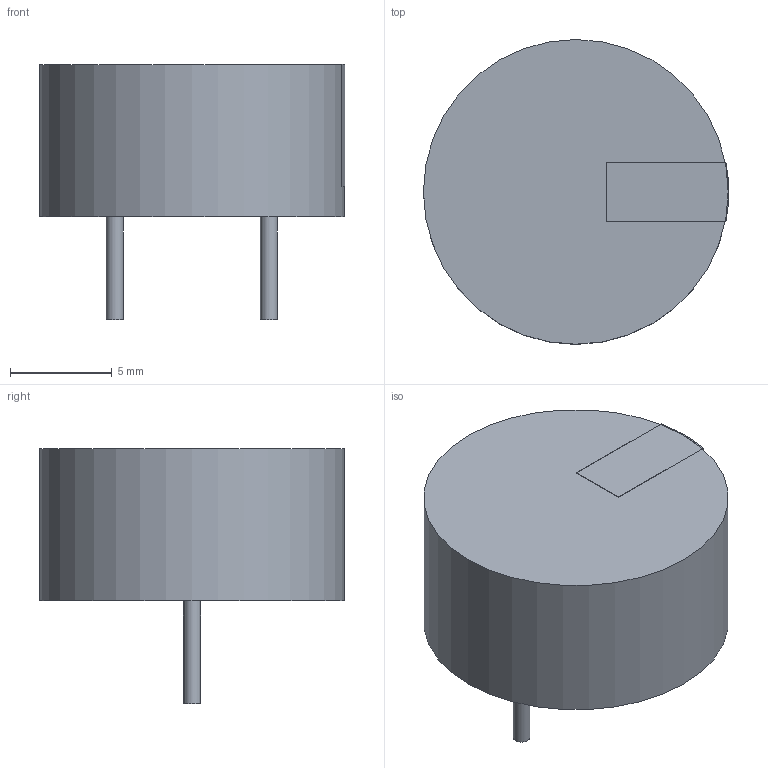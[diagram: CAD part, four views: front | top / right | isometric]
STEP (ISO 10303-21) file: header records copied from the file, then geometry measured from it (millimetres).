
FILE_DESCRIPTION(('STEP AP214'),'1');
FILE_NAME('CVS-1508_CUD','2025-12-20T01:48:47',(''),(''),'','','');
FILE_SCHEMA(('AUTOMOTIVE_DESIGN'));
Length unit declared in the file: millimetre
Products named in the file (1): product
Bounding box: 15.03 x 15.01 x 12.56 mm (x, y, z)
Volume: 1332.6 mm3; surface area: 807.3 mm2
Topology: 4 solids, 4 shells, 17 faces, 27 edges, 18 vertices
Faces by surface type: plane 12, cylinder 5
Full cylindrical faces by diameter (mm): 0.838 x2, 15.011 x1
Entity records: 552 total; most frequent: DIRECTION 76, CARTESIAN_POINT 48, ORIENTED_EDGE 48, AXIS2_PLACEMENT_3D 31, EDGE_CURVE 24, EDGE_LOOP 20, VERTEX_POINT 18, PRESENTATION_STYLE_ASSIGNMENT 17
